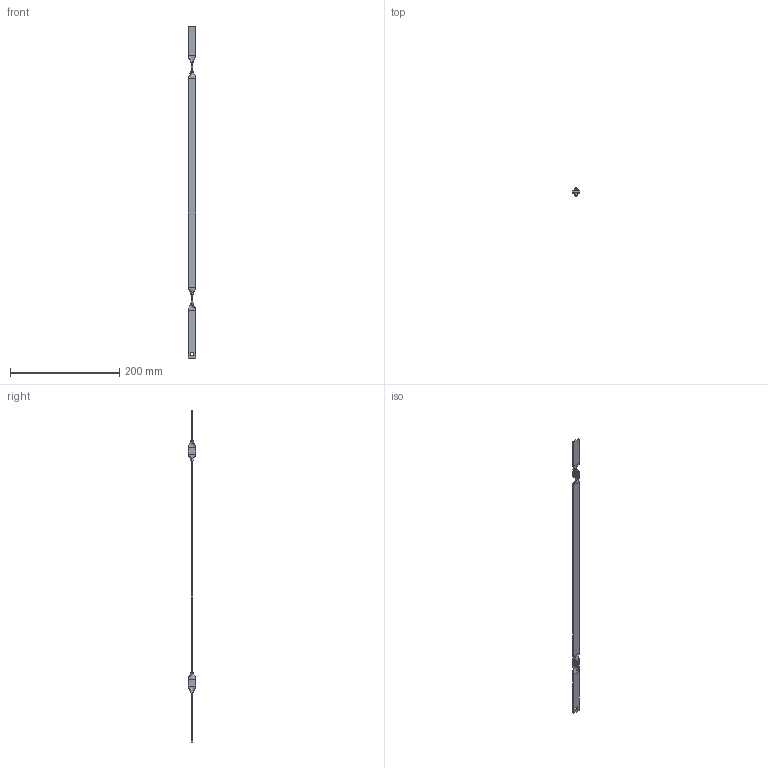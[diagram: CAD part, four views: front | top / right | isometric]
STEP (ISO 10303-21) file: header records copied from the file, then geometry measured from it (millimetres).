
FILE_DESCRIPTION (( 'STEP AP214' ), '1' );
FILE_NAME ('PK-290-601.STEP', '2016-08-18T09:39:50', ( 'RST-Dolba' ), ( '' ), 'SwSTEP 2.0', 'SolidWorks 2015', '' );
FILE_SCHEMA (( 'AUTOMOTIVE_DESIGN' ));
Length unit declared in the file: millimetre
Products named in the file (1): PK-290-601
Bounding box: 14 x 14 x 608.5 mm (x, y, z)
Volume: 24810.1 mm3; surface area: 20591.8 mm2
Topology: 1 solids, 1 shells, 42 faces, 88 edges, 48 vertices
Faces by surface type: plane 26, bspline 16
Entity records: 1366 total; most frequent: CARTESIAN_POINT 531, ORIENTED_EDGE 176, DIRECTION 126, EDGE_CURVE 88, LINE 72, VECTOR 72, VERTEX_POINT 48, EDGE_LOOP 44
